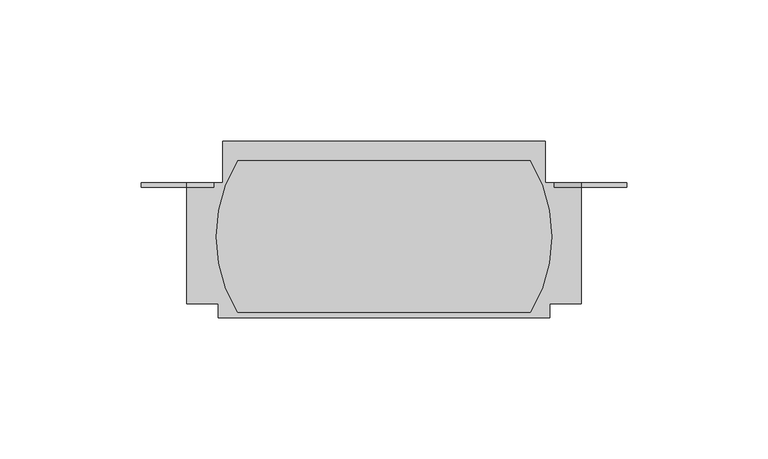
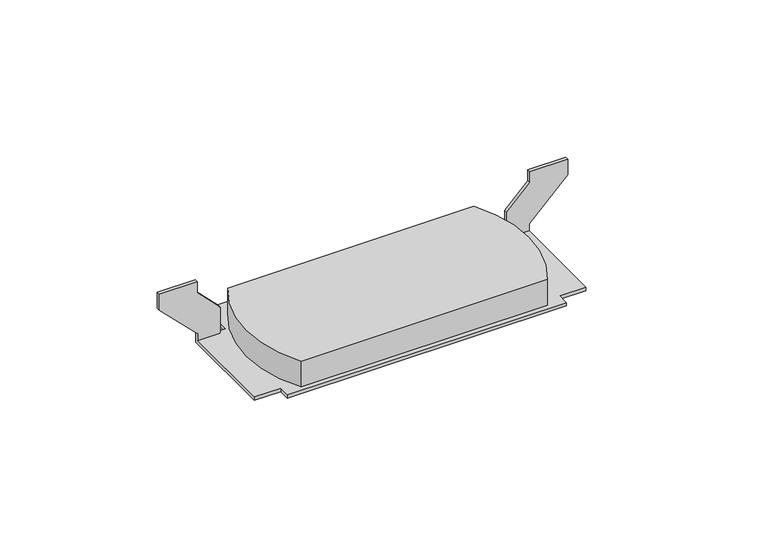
"""IFC4 building model written with IfcOpenShell, lengths in millimetres: proxy geometry, Device_Plate-Resource_Series-Wiremold-RFB4 : Side, For Ortronics Series 2, RFB4-LPBS2."""

import ifcopenshell
import ifcopenshell.guid

model = None  # the IFC model being written
_history = None  # IfcOwnerHistory: only IFC2X3 demands one
_inside = {}  # id of a spatial element -> (the spatial element, [elements in it])
_under = {}  # id of a project, library or spatial element -> (it, [spatial elements below it])
_declared = {}  # id of a project -> (the project, [libraries it declares])
_typed = {}  # id of a type object -> (the type object, [elements of that type])
_made_of = {}  # id of a material, layer set ... -> (it, [elements and type objects made of it])


def new_model(schema):
    """Start an empty IFC model of exactly this schema.

    Asked for "IFC4X3", IfcOpenShell would pick the latest addendum, in which some entities
    have other attributes; the version numbers below select the first issue.
    IFC2X3 requires an IfcOwnerHistory on every rooted entity: one is made here for all.
    """
    global model, _history
    if schema == "IFC4X3":
        model = ifcopenshell.file(schema_version=(4, 3, 0, 0))
    else:
        model = ifcopenshell.file(schema=schema)
    _inside.clear()
    _under.clear()
    _declared.clear()
    _typed.clear()
    _made_of.clear()
    _history = None
    if model.schema == "IFC2X3":
        org = make("IfcOrganization", Name="unknown")
        user = make(
            "IfcPersonAndOrganization",
            ThePerson=make("IfcPerson", FamilyName="unknown"),
            TheOrganization=org,
        )
        app = make(
            "IfcApplication",
            ApplicationDeveloper=org,
            Version="unknown",
            ApplicationFullName="unknown",
            ApplicationIdentifier="unknown",
        )
        _history = make(
            "IfcOwnerHistory",
            OwningUser=user,
            OwningApplication=app,
            ChangeAction="ADDED",
            CreationDate=0,
        )
    return model


def make(cls, **values):
    """One entity of the class cls with the attributes given. An attribute that is None is left unset."""
    return model.create_entity(
        cls, **{name: value for name, value in values.items() if value is not None}
    )


def rooted(cls, **values):
    """An entity with a GlobalId (a new one), such as an element, a storey or a relation."""
    return make(cls, GlobalId=ifcopenshell.guid.new(), OwnerHistory=_history, **values)


def si_unit(unit_type, name, prefix=None):
    """IfcSIUnit, for example si_unit("LENGTHUNIT", "METRE", prefix="MILLI")."""
    return make("IfcSIUnit", UnitType=unit_type, Prefix=prefix, Name=name)


def assignment(units):
    """IfcUnitAssignment: the units of a project."""
    return None if units is None else make("IfcUnitAssignment", Units=units)


def point(xyz):
    """IfcCartesianPoint."""
    return None if xyz is None else make("IfcCartesianPoint", Coordinates=xyz)


def direction(xyz):
    """IfcDirection."""
    return None if xyz is None else make("IfcDirection", DirectionRatios=xyz)


def frame(location, z_axis=None, x_axis=None):
    """IfcAxis2Placement3D, a coordinate frame: its origin and axes. An axis left out is left unset."""
    return make(
        "IfcAxis2Placement3D",
        Location=point(location),
        Axis=direction(z_axis),
        RefDirection=direction(x_axis),
    )


def origin():
    """The frame at (0, 0, 0) with its axes left unset."""
    return frame((0.0, 0.0, 0.0))


def place(relative_to, where):
    """IfcLocalPlacement: puts the frame where relative to a parent placement (None: the world)."""
    return make(
        "IfcLocalPlacement", PlacementRelTo=relative_to, RelativePlacement=where
    )


def context(
    kind, dimensions, precision=None, world=None, true_north=None, identifier=None
):
    """IfcGeometricRepresentationContext, for example the 3D "Model" context."""
    return make(
        "IfcGeometricRepresentationContext",
        ContextIdentifier=identifier,
        ContextType=kind,
        CoordinateSpaceDimension=dimensions,
        Precision=precision,
        WorldCoordinateSystem=world,
        TrueNorth=true_north,
    )


def project(units=None, contexts=None):
    """IfcProject with its units and contexts."""
    return rooted(
        "IfcProject",
        Name="project",
        RepresentationContexts=contexts,
        UnitsInContext=assignment(units),
    )


def spatial(cls, under=None, at=None, **own):
    """A site, building, storey or space (cls), placed at a placement, below another one or the project."""
    s = rooted(cls, ObjectPlacement=at, **own)
    if under is not None:
        _under.setdefault(under.id(), (under, []))[1].append(s)
    return s


def circle_curve(where, radius):
    """IfcCircle in the frame where."""
    return make("IfcCircle", Position=where, Radius=radius)


def shape(context_of_items, identifier, shape_type, items):
    """IfcShapeRepresentation: the items that make up one representation, for example the "Body"."""
    return make(
        "IfcShapeRepresentation",
        ContextOfItems=context_of_items,
        RepresentationIdentifier=identifier,
        RepresentationType=shape_type,
        Items=items,
    )


def source(mapping_origin, context_of_items, identifier, shape_type, items):
    """IfcRepresentationMap: a shape defined once, which mapped items show again and again."""
    return make(
        "IfcRepresentationMap",
        MappingOrigin=mapping_origin,
        MappedRepresentation=shape(context_of_items, identifier, shape_type, items),
    )


def transform(
    local_origin,
    x_axis=None,
    y_axis=None,
    z_axis=None,
    scale=None,
    scale2=None,
    scale3=None,
    uniform=True,
):
    """IfcCartesianTransformationOperator3D, or its non-uniform kind. x_axis, y_axis, z_axis: its Axis1, 2, 3."""
    if uniform:
        return make(
            "IfcCartesianTransformationOperator3D",
            Axis1=direction(x_axis),
            Axis2=direction(y_axis),
            LocalOrigin=point(local_origin),
            Scale=scale,
            Axis3=direction(z_axis),
        )
    return make(
        "IfcCartesianTransformationOperator3DnonUniform",
        Axis1=direction(x_axis),
        Axis2=direction(y_axis),
        LocalOrigin=point(local_origin),
        Scale=scale,
        Axis3=direction(z_axis),
        Scale2=scale2,
        Scale3=scale3,
    )


def mapped(mapping_source, mapping_target):
    """IfcMappedItem: shows the shape of a source again, moved by a transform."""
    return make(
        "IfcMappedItem", MappingSource=mapping_source, MappingTarget=mapping_target
    )


def made_of(thing, what):
    """Note that an element or type object is made of a material, layer set ...; save() writes the relation."""
    if what is not None:
        _made_of.setdefault(what.id(), (what, []))[1].append(thing)
    return thing


def element(
    cls,
    number,
    at=None,
    inside=None,
    cuts=None,
    type_object=None,
    material=None,
    context=None,
    identifier="Body",
    shape_type=None,
    held_by="IfcProductDefinitionShape",
    body=None,
    shapes=None,
    **own,
):
    """One element of the class cls, such as IfcWall. Its Tag is "e" and its number.

    at: its placement. inside: the storey or other place that contains it. cuts: it is an
    opening in that element (IfcRelVoidsElement). A single representation is given by context,
    identifier, shape_type and body (its items); several are given by shapes. held_by: the class
    of the entity that holds the representations. save() writes the other relations.
    """
    e = rooted(cls, Tag="e%d" % number, ObjectPlacement=at, **own)
    if body is not None:
        shapes = [shape(context, identifier, shape_type, body)]
    if shapes is not None:
        e.Representation = make(held_by, Representations=shapes)
    if inside is not None:
        _inside.setdefault(inside.id(), (inside, []))[1].append(e)
    if cuts is not None:
        rooted(
            "IfcRelVoidsElement", RelatingBuildingElement=cuts, RelatedOpeningElement=e
        )
    if type_object is not None:
        _typed.setdefault(type_object.id(), (type_object, []))[1].append(e)
    return made_of(e, material)


def aggregate(whole, parts):
    """IfcRelAggregates: a whole, such as a stair, and the parts it consists of."""
    return rooted("IfcRelAggregates", RelatingObject=whole, RelatedObjects=parts)


def save(model, path):
    """Write the relations noted so far, then the file.

    IfcRelAggregates (storeys below a building ...), IfcRelContainedInSpatialStructure (elements
    in a storey), IfcRelDefinesByType, IfcRelAssociatesMaterial and IfcRelDeclares: one each for
    every whole, place, type object, material and project.
    """
    for whole, parts in _under.values():
        aggregate(whole, parts)
    for where, things in _inside.values():
        rooted(
            "IfcRelContainedInSpatialStructure",
            RelatedElements=things,
            RelatingStructure=where,
        )
    for kind, things in _typed.values():
        rooted("IfcRelDefinesByType", RelatedObjects=things, RelatingType=kind)
    for what, things in _made_of.values():
        rooted("IfcRelAssociatesMaterial", RelatedObjects=things, RelatingMaterial=what)
    for by, libraries in _declared.values():
        rooted("IfcRelDeclares", RelatingContext=by, RelatedDefinitions=libraries)
    model.write(path)


def plane_surface(at):
    """IfcPlane: the flat surface through the origin of the frame at, square to its z axis."""
    return make("IfcPlane", Position=at)


def cylinder_surface(at, radius):
    """IfcCylindricalSurface: all points at the distance radius from the z axis of the frame at."""
    return make("IfcCylindricalSurface", Position=at, Radius=radius)


def advanced_brep(points, edges, surfaces, faces):
    """IfcAdvancedBrep: a solid bounded by faces that lie on surfaces and meet in shared edges.

    An edge is (start, end): straight between two places in points (the first is 0);
    or (start, end, curve); or (start, end, curve, False) where it runs against its curve.
    A face is (place in surfaces, loops), or (place, loops, False) where it looks against
    its surface's normal. A loop lists edges by number (the first is 1), with a minus sign
    where the edge is run from its end to its start. The first loop is the outer one.
    """
    corners = [point(p) for p in points]
    vertices = [make("IfcVertexPoint", VertexGeometry=c) for c in corners]
    made = []
    for start, end, *more in edges:
        made.append(
            make(
                "IfcEdgeCurve",
                EdgeStart=vertices[start],
                EdgeEnd=vertices[end],
                EdgeGeometry=more[0] if more else make("IfcPolyline", Points=[corners[start], corners[end]]),
                SameSense=more[1] if len(more) > 1 else True,
            )
        )
    hull = []
    for where, loops, *sense in faces:
        bounds = []
        for j, loop in enumerate(loops):
            ring = [make("IfcOrientedEdge", EdgeElement=made[abs(k) - 1], Orientation=k > 0) for k in loop]
            bounds.append(
                make(
                    "IfcFaceOuterBound" if j == 0 else "IfcFaceBound",
                    Bound=make("IfcEdgeLoop", EdgeList=ring),
                    Orientation=True,
                )
            )
        hull.append(make("IfcAdvancedFace", Bounds=bounds, FaceSurface=surfaces[where], SameSense=sense[0] if sense else True))
    return make("IfcAdvancedBrep", Outer=make("IfcClosedShell", CfsFaces=hull))


def electrical_fixtures_10a2b2ec(model_context):
    return source(origin(), model_context, "Body", "AdvancedBrep", [
        advanced_brep(
        [(-57.15, -792.8060924, 1.524), (-57.15, -807.5761924, 1.524), (-60.325, -807.5761924, 1.524), (-60.325, -809.1001924, 1.524), (-69.85, -809.1001924, 1.524), (-69.85, -850.3751924, 1.524), (-58.7375, -850.3751924, 1.524), (-58.7375, -855.2646924, 1.524), (58.7375, -855.2646924, 1.524), (58.7375, -850.3751924, 1.524), (69.85, -850.3751924, 1.524), (69.85, -809.1001924, 1.524), (60.325, -809.1001924, 1.524), (60.325, -807.5761924, 1.524), (57.15, -807.5761924, 1.524), (57.15, -792.8060924, 1.524), (51.8643552, -853.4204237, 1.524), (-51.8643552, -853.4204237, 1.524), (-51.8643552, -799.8088703, 1.524), (51.8643552, -799.8088703, 1.524), (-57.15, -792.8060924, 0.0), (57.15, -792.8060924, 0.0), (57.15, -807.5761924, 0.0), (69.85, -807.5761924, 0.0), (69.85, -850.3751924, 0.0), (58.7375, -850.3751924, 0.0), (58.7375, -855.2646924, 0.0), (-58.7375, -855.2646924, 0.0), (-58.7375, -850.3751924, 0.0), (-69.85, -850.3751924, 0.0), (-69.85, -807.5761924, 0.0), (-57.15, -807.5761924, 0.0), (-69.85, -807.5761924, 4.699), (-85.979, -807.5761924, 20.828), (-85.979, -807.5761924, 27.7876), (-70.104, -807.5761924, 27.7876), (-70.104, -807.5761924, 22.9135122), (-60.325, -807.5761924, 13.1345122), (70.104, -807.5761924, 22.9135122), (70.104, -807.5761924, 27.7876), (85.979, -807.5761924, 27.7876), (85.979, -807.5761924, 20.828), (69.85, -807.5761924, 4.699), (60.325, -807.5761924, 13.1345122), (-69.85, -809.1001924, 4.699), (69.85, -809.1001924, 4.699), (-51.8643552, -853.4204237, 13.081), (51.8643552, -853.4204237, 13.081), (51.8643552, -799.8088703, 13.081), (-51.8643552, -799.8088703, 13.081), (-70.104, -809.1001924, 22.9135122), (-70.104, -809.1001924, 27.7876), (-85.979, -809.1001924, 27.7876), (-85.979, -809.1001924, 20.828), (-60.325, -809.1001924, 13.1345122), (70.104, -809.1001924, 22.9135122), (60.325, -809.1001924, 13.1345122), (85.979, -809.1001924, 20.828), (85.979, -809.1001924, 27.7876), (70.104, -809.1001924, 27.7876)],
        [
            (0, 1),
            (1, 2),
            (2, 3),
            (3, 4),
            (4, 5),
            (5, 6),
            (6, 7),
            (7, 8),
            (8, 9),
            (9, 10),
            (10, 11),
            (11, 12),
            (12, 13),
            (13, 14),
            (14, 15),
            (15, 0),
            (16, 17),
            (17, 18, circle_curve(frame((-8.001, -826.614647, 1.524), z_axis=(0.0, 0.0, -1.0), x_axis=(1.0, 0.0, 0.0)), 51.4056767)),
            (18, 19),
            (19, 16, circle_curve(frame((8.001, -826.614647, 1.524), z_axis=(0.0, 0.0, -1.0), x_axis=(1.0, 0.0, 0.0)), 51.4056767)),
            (20, 21),
            (21, 22),
            (22, 23),
            (23, 24),
            (24, 25),
            (25, 26),
            (26, 27),
            (27, 28),
            (28, 29),
            (29, 30),
            (30, 31),
            (31, 20),
            (0, 20),
            (31, 1),
            (30, 32),
            (32, 33),
            (33, 34),
            (34, 35),
            (35, 36),
            (36, 37),
            (37, 2),
            (38, 39),
            (39, 40),
            (40, 41),
            (41, 42),
            (42, 23),
            (22, 14),
            (13, 43),
            (43, 38),
            (29, 5),
            (4, 44),
            (44, 32),
            (28, 6),
            (27, 7),
            (26, 8),
            (25, 9),
            (24, 10),
            (42, 45),
            (45, 11),
            (21, 15),
            (46, 47),
            (47, 48, circle_curve(frame((8.001, -826.614647, 13.081), z_axis=(0.0, 0.0, 1.0), x_axis=(1.0, 0.0, 0.0)), 51.4056767)),
            (48, 49),
            (49, 46, circle_curve(frame((-8.001, -826.614647, 13.081), z_axis=(0.0, 0.0, 1.0), x_axis=(1.0, 0.0, 0.0)), 51.4056767)),
            (46, 17),
            (16, 47),
            (19, 48),
            (18, 49),
            (50, 51),
            (51, 52),
            (52, 53),
            (53, 44),
            (3, 54),
            (54, 50),
            (55, 56),
            (56, 12),
            (45, 57),
            (57, 58),
            (58, 59),
            (59, 55),
            (50, 36),
            (35, 51),
            (34, 52),
            (33, 53),
            (37, 54),
            (55, 38),
            (43, 56),
            (41, 57),
            (40, 58),
            (39, 59),
        ],
        [
            plane_surface(frame((-57.15, -794.3300924, 1.524), z_axis=(0.0, 0.0, 1.0), x_axis=(0.0, -1.0, 0.0))),
            plane_surface(frame((-57.15, -794.3300924, 0.0), z_axis=(0.0, 0.0, -1.0), x_axis=(0.0, 1.0, 0.0))),
            plane_surface(frame((-57.15, -792.8060924, 1.524), z_axis=(-1.0, 0.0, 0.0), x_axis=(0.0, 0.0, -1.0))),
            plane_surface(frame((-57.15, -807.5761924, 1.524), z_axis=(0.0, 1.0, 0.0), x_axis=(0.0, 0.0, -1.0))),
            plane_surface(frame((-69.85, -807.5761924, 1.524), z_axis=(-1.0, 0.0, 0.0), x_axis=(0.0, 0.0, -1.0))),
            plane_surface(frame((-69.85, -850.3751924, 1.524), z_axis=(0.0, -1.0, 0.0), x_axis=(0.0, 0.0, -1.0))),
            plane_surface(frame((-58.7375, -850.3751924, 1.524), z_axis=(-1.0, 0.0, 0.0), x_axis=(0.0, 0.0, -1.0))),
            plane_surface(frame((-58.7375, -855.2646924, 1.524), z_axis=(0.0, -1.0, 0.0), x_axis=(0.0, 0.0, -1.0))),
            plane_surface(frame((58.7375, -855.2646924, 1.524), z_axis=(1.0, 0.0, 0.0), x_axis=(0.0, 0.0, -1.0))),
            plane_surface(frame((58.7375, -850.3751924, 1.524), z_axis=(0.0, -1.0, 0.0), x_axis=(0.0, 0.0, -1.0))),
            plane_surface(frame((69.85, -850.3751924, 1.524), z_axis=(1.0, 0.0, 0.0), x_axis=(0.0, 0.0, -1.0))),
            plane_surface(frame((57.15, -807.5761924, 1.524), z_axis=(1.0, 0.0, 0.0), x_axis=(0.0, 0.0, -1.0))),
            plane_surface(frame((57.15, -792.8060924, 1.524), z_axis=(0.0, 1.0, 0.0), x_axis=(0.0, 0.0, -1.0))),
            plane_surface(frame((49.3137525, -853.4204237, 13.081), z_axis=(0.0, 0.0, 1.0), x_axis=(1.0, 0.0, 0.0))),
            plane_surface(frame((-51.8643552, -853.4204237, 13.081), z_axis=(0.0, -1.0, 0.0), x_axis=(0.0, 0.0, -1.0))),
            cylinder_surface(frame((8.001, -826.614647, 1.524), z_axis=(0.0, 0.0, 1.0), x_axis=(1.0, 0.0, 0.0)), 51.4056767),
            plane_surface(frame((51.8643552, -799.8088703, 13.081), z_axis=(0.0, 1.0, 0.0), x_axis=(0.0, 0.0, -1.0))),
            cylinder_surface(frame((-8.001, -826.614647, 1.524), z_axis=(0.0, 0.0, 1.0), x_axis=(1.0, 0.0, 0.0)), 51.4056767),
            plane_surface(frame((-70.104, -809.1001924, 22.9135122), z_axis=(0.0, -1.0, 0.0), x_axis=(0.0, 0.0, 1.0))),
            plane_surface(frame((-70.104, -809.1001924, 22.9135122), z_axis=(1.0, 0.0, 0.0), x_axis=(0.0, 1.0, 0.0))),
            plane_surface(frame((-70.104, -809.1001924, 27.7876), z_axis=(0.0, 0.0, 1.0), x_axis=(0.0, 1.0, 0.0))),
            plane_surface(frame((-85.979, -809.1001924, 27.7876), z_axis=(-1.0, 0.0, 0.0), x_axis=(0.0, 1.0, 0.0))),
            plane_surface(frame((-85.979, -809.1001924, 20.828), z_axis=(-0.7071067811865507, 0.0, -0.7071067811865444), x_axis=(0.0, 1.0, 0.0))),
            plane_surface(frame((-60.325, -809.1001924, 0.0), z_axis=(1.0, 0.0, 0.0), x_axis=(0.0, 1.0, 0.0))),
            plane_surface(frame((-60.325, -809.1001924, 13.1345122), z_axis=(0.7071067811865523, 0.0, 0.7071067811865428), x_axis=(0.0, 1.0, 0.0))),
            plane_surface(frame((70.104, -809.1001924, 22.9135122), z_axis=(-0.7071067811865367, 0.0, 0.7071067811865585), x_axis=(0.0, 1.0, 0.0))),
            plane_surface(frame((60.325, -809.1001924, 13.1345122), z_axis=(-1.0, 0.0, 0.0), x_axis=(0.0, 1.0, 0.0))),
            plane_surface(frame((69.85, -809.1001924, 4.699), z_axis=(0.7071067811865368, 0.0, -0.7071067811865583), x_axis=(0.0, 1.0, 0.0))),
            plane_surface(frame((85.979, -809.1001924, 20.828), z_axis=(1.0, 0.0, 0.0), x_axis=(0.0, 1.0, 0.0))),
            plane_surface(frame((85.979, -809.1001924, 27.7876), z_axis=(0.0, 0.0, 1.0), x_axis=(0.0, 1.0, 0.0))),
            plane_surface(frame((70.104, -809.1001924, 27.7876), z_axis=(-1.0, 0.0, 0.0), x_axis=(0.0, 1.0, 0.0))),
        ],
        [
            (0, [[1, 2, 3, 4, 5, 6, 7, 8, 9, 10, 11, 12, 13, 14, 15, 16], [17, 18, 19, 20]]),
            (1, [[21, 22, 23, 24, 25, 26, 27, 28, 29, 30, 31, 32]]),
            (2, [[-1, 33, -32, 34]]),
            (3, [[-34, -31, 35, 36, 37, 38, 39, 40, 41, -2]]),
            (3, [[42, 43, 44, 45, 46, -23, 47, -14, 48, 49]]),
            (4, [[-35, -30, 50, -5, 51, 52]]),
            (5, [[-6, -50, -29, 53]]),
            (6, [[-7, -53, -28, 54]]),
            (7, [[-8, -54, -27, 55]]),
            (8, [[-9, -55, -26, 56]]),
            (9, [[-10, -56, -25, 57]]),
            (10, [[-57, -24, -46, 58, 59, -11]]),
            (11, [[-15, -47, -22, 60]]),
            (12, [[-16, -60, -21, -33]]),
            (13, [[61, 62, 63, 64]]),
            (14, [[-61, 65, -17, 66]]),
            (15, [[-62, -66, -20, 67]]),
            (16, [[-63, -67, -19, 68]]),
            (17, [[-64, -68, -18, -65]]),
            (18, [[69, 70, 71, 72, -51, -4, 73, 74]]),
            (18, [[75, 76, -12, -59, 77, 78, 79, 80]]),
            (19, [[-69, 81, -39, 82]]),
            (20, [[-70, -82, -38, 83]]),
            (21, [[-71, -83, -37, 84]]),
            (22, [[-72, -84, -36, -52]]),
            (23, [[85, -73, -3, -41]]),
            (24, [[-74, -85, -40, -81]]),
            (25, [[-75, 86, -49, 87]]),
            (26, [[-87, -48, -13, -76]]),
            (27, [[-77, -58, -45, 88]]),
            (28, [[-78, -88, -44, 89]]),
            (29, [[-79, -89, -43, 90]]),
            (30, [[-80, -90, -42, -86]]),
        ],
    ),
    ])


if __name__ == "__main__":
    model = new_model("IFC4")
    model_context = context("Model", 3, world=origin())
    ifc_project = project(units=[si_unit("LENGTHUNIT", "METRE", prefix="MILLI")], contexts=[model_context])
    site = spatial("IfcSite", under=ifc_project)
    building = spatial("IfcBuilding", under=site)
    placement = place(None, origin())
    electrical_fixtures_shape = electrical_fixtures_10a2b2ec(model_context)
    element("IfcBuildingElementProxy", 1, Name="Device_Plate-Resource_Series-Wiremold-RFB4 : Side, For Ortronics Series 2, RFB4-LPBS2", ObjectType="Device_Plate-Resource_Series-Wiremold-RFB4 : Side, For Ortronics Series 2, RFB4-LPBS2", at=placement, inside=building, context=model_context, shape_type="MappedRepresentation", body=[
        mapped(electrical_fixtures_shape, transform((0.0, 0.0, 0.0), x_axis=(1.0, 0.0, 0.0), y_axis=(0.0, 1.0, 0.0), z_axis=(0.0, 0.0, 1.0))),
    ])
    save(model, "model.ifc")
